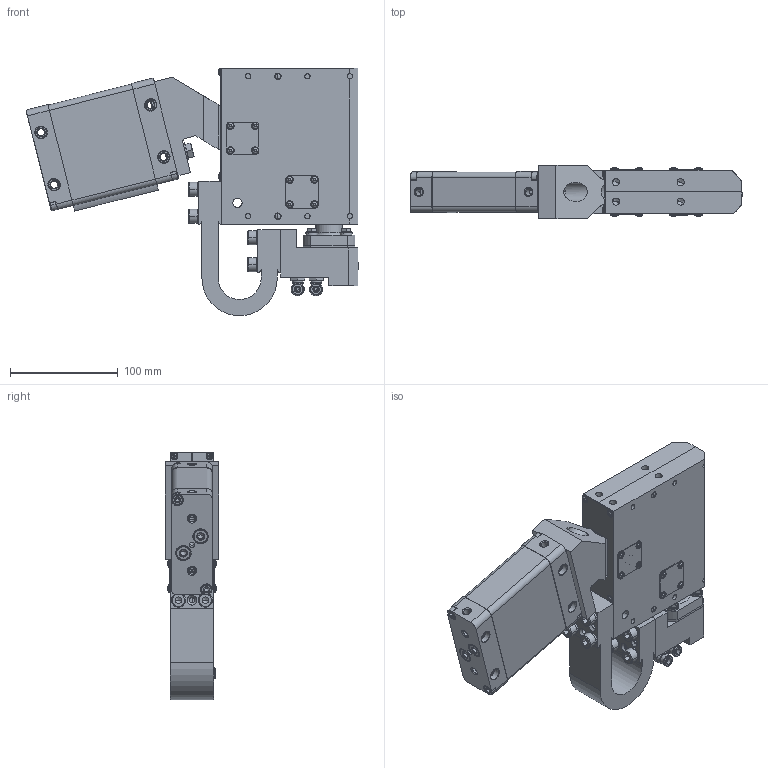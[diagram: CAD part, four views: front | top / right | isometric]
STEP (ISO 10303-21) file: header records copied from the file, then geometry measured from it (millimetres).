
FILE_DESCRIPTION(('CATIA V5 STEP Exchange'),'2;1');
FILE_NAME('C:\Users\Hynek\Hynek Kukrál\Týmový web - Projekty\ZAKAZKY\Interni konstrukce\IK008 svarovaci karotky\IK008-1 (400kg)\Mechanus--svarovaci valec 400kg--IK008-1 vykuchano.stp','2024-03-06T14:11:23+00:00',('none'),('none'),'CATIA Version 5 Release 19 SP 9 (IN-10)','CATIA V5 STEP AP214','none');
FILE_SCHEMA(('AUTOMOTIVE_DESIGN { 1 0 10303 214 1 1 1 1 }'));
Products named in the file (1): Mechanus--svarovaci valec 400kg--IK008-1
Bounding box: 308.48 x 50 x 230 mm (x, y, z)
Volume: 1472927.3 mm3; surface area: 308198.4 mm2
Topology: 78 solids, 81 shells, 2394 faces, 5943 edges, 3784 vertices
Faces by surface type: plane 917, cylinder 765, cone 508, torus 136, bspline 60, sphere 8
Entity records: 80483 total; most frequent: CARTESIAN_POINT 19360, ORIENTED_EDGE 11690, DIRECTION 8574, EDGE_CURVE 5845, AXIS2_PLACEMENT_3D 4201, VERTEX_POINT 3784, EDGE_LOOP 2771, VECTOR 2428
